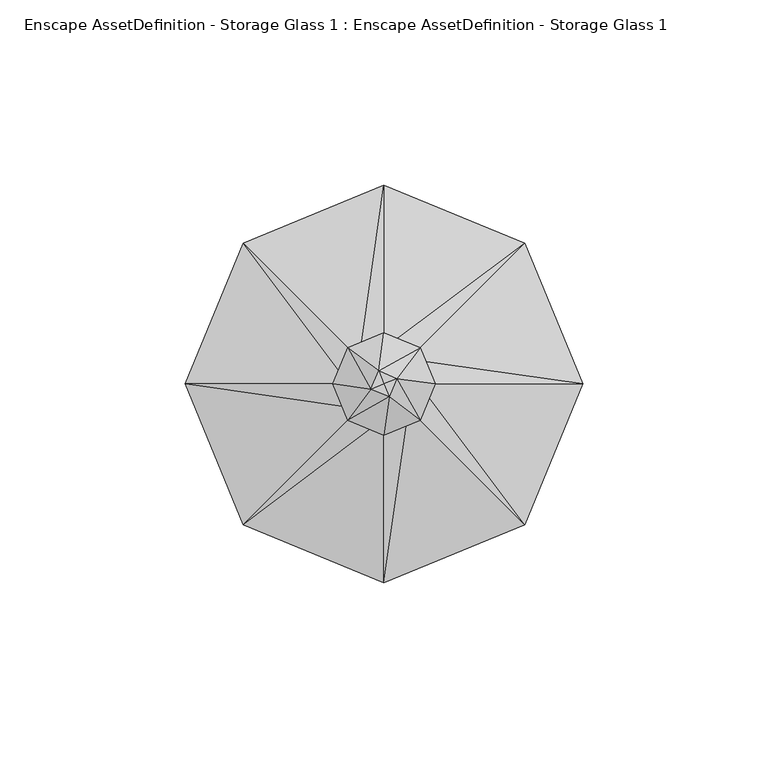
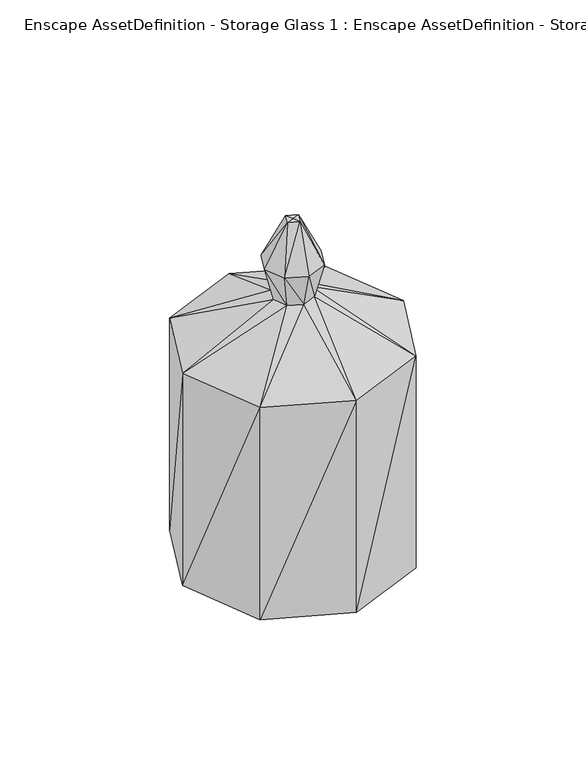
"""IFC4 building model written with IfcOpenShell, lengths in millimetres: geographic element geometry, Enscape AssetDefinition - Storage Glass 1 : Enscape AssetDefinition - Storage Glass 1."""

from ifc_helpers import new_model, si_unit, origin, place, context, project, spatial, faceted_brep, source, transform, mapped, element, save


def enscape_assetdefinition_storage_glass_1_enscape_05d8ce10(model_context):
    return source(origin(), model_context, "Body", "Brep", [
        faceted_brep([(53.7579842, 0.0, 109.0245098), (53.7579842, 0.0, 0.0), (38.012635, 38.012635, 109.0245098), (38.012635, 38.012635, 0.0), (38.0126312, -38.0126387, 0.0), (7e-07, -7e-07, 0.0), (38.0126312, -38.0126387, 109.0245098), (9.4551621, -1e-07, 131.6014379), (6.6858092, 6.6858092, 131.6014379), (6e-07, -53.7579842, 0.0), (6e-07, -53.7579842, 109.0245098), (6.6858083, -6.6858092, 131.6014379), (13.822359, -2e-07, 148.6377269), (9.7738812, -9.773884, 148.6377269), (3e-07, -9.4551621, 131.6014379), (5e-07, -13.822359, 148.6377269), (-38.0126275, -38.0126387, 109.0245098), (-38.0126275, -38.0126387, 0.0), (-53.7579842, -4.7e-06, 0.0), (-53.7579842, -4.7e-06, 109.0245098), (-6.6858083, -6.6858092, 131.6014379), (-9.7738812, -9.773884, 148.6377269), (1.4526461, -3.5069988, 169.9999869), (-13.822359, -1.4e-06, 148.6377269), (-3.5069983, -1.4526466, 169.9999869), (-9.4551621, -1e-06, 131.6014379), (-9.773884, 9.773884, 148.6377269), (0.0, 0.0, 169.9999571), (-1.4526465, 3.5069988, 169.9999869), (3.5069988, 1.4526465, 169.9999869), (9.773884, 9.773884, 148.6377269), (-2e-07, 13.822359, 148.6377269), (-6.6858092, 6.6858092, 131.6014379), (-2e-07, 9.4551621, 131.6014379), (-2.3e-06, 53.7579842, 109.0245098), (-38.012635, 38.012635, 109.0245098), (-2.3e-06, 53.7579842, 0.0), (-38.012635, 38.012635, 0.0)], [[[0, 1, 2]], [[2, 1, 3]], [[0, 4, 1]], [[5, 3, 1]], [[5, 1, 4]], [[6, 4, 0]], [[7, 0, 8]], [[8, 0, 2]], [[7, 6, 0]], [[6, 9, 4]], [[5, 4, 9]], [[10, 9, 6]], [[11, 6, 7]], [[11, 10, 6]], [[12, 7, 8]], [[13, 11, 7]], [[13, 7, 12]], [[14, 10, 11]], [[15, 14, 11]], [[15, 11, 13]], [[16, 17, 10]], [[10, 17, 9]], [[14, 16, 10]], [[5, 9, 17]], [[16, 18, 17]], [[5, 17, 18]], [[19, 18, 16]], [[20, 16, 14]], [[20, 19, 16]], [[21, 20, 14]], [[21, 14, 15]], [[21, 15, 22]], [[15, 13, 22]], [[23, 21, 24]], [[23, 20, 21]], [[21, 22, 24]], [[25, 19, 20]], [[23, 25, 20]], [[26, 23, 24]], [[26, 25, 23]], [[27, 28, 24]], [[27, 24, 22]], [[26, 24, 28]], [[27, 22, 29]], [[13, 29, 22]], [[27, 29, 28]], [[30, 31, 28]], [[31, 26, 28]], [[30, 28, 29]], [[26, 32, 25]], [[31, 32, 26]], [[31, 33, 32]], [[30, 33, 31]], [[30, 8, 33]], [[12, 30, 29]], [[12, 8, 30]], [[13, 12, 29]], [[8, 2, 33]], [[33, 34, 32]], [[33, 2, 34]], [[32, 35, 25]], [[32, 34, 35]], [[2, 3, 34]], [[34, 36, 35]], [[34, 3, 36]], [[35, 37, 19]], [[35, 36, 37]], [[25, 35, 19]], [[5, 36, 3]], [[5, 37, 36]], [[19, 37, 18]], [[5, 18, 37]]]),
    ])


if __name__ == "__main__":
    model = new_model("IFC4")
    model_context = context("Model", 3, world=origin())
    ifc_project = project(units=[si_unit("LENGTHUNIT", "METRE", prefix="MILLI")], contexts=[model_context])
    site = spatial("IfcSite", under=ifc_project)
    building = spatial("IfcBuilding", under=site)
    placement = place(None, origin())
    enscape_assetdefinition_storage_glass_1_enscape_shape = enscape_assetdefinition_storage_glass_1_enscape_05d8ce10(model_context)
    element("IfcGeographicElement", 1, ObjectType="Enscape AssetDefinition - Storage Glass 1 : Enscape AssetDefinition - Storage Glass 1", at=placement, inside=building, context=model_context, shape_type="MappedRepresentation", body=[
        mapped(enscape_assetdefinition_storage_glass_1_enscape_shape, transform((0.0, 0.0, 0.0), x_axis=(1.0, 0.0, 0.0), y_axis=(0.0, 1.0, 0.0), z_axis=(0.0, 0.0, 1.0))),
    ])
    save(model, "model.ifc")
